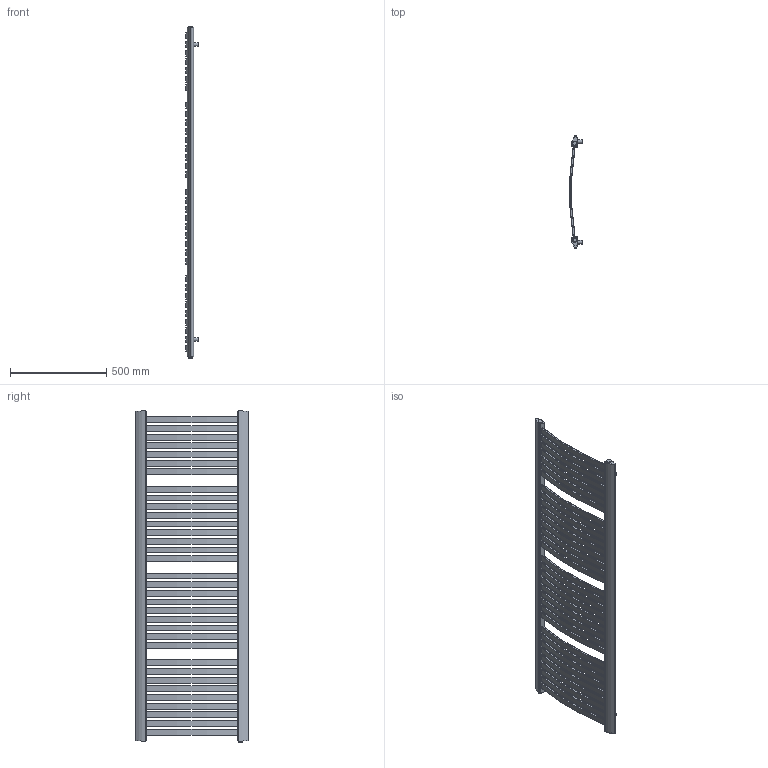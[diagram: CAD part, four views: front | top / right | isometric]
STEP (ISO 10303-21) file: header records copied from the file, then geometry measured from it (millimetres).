
FILE_DESCRIPTION(/* description */ (''),/* implementation_level */ '2;1');
FILE_NAME(/* name */ 'C:\Grzejniki\13DLUXRAD\łazienkowe\KASTOR\KASTOR 1710x580.iam.stp',/* time_stamp */ '2016-06-28T17:35:04+02:00',/* author */ ('m.szydziak'),/* organization */ (''),/* preprocessor_version */ 'ST-DEVELOPER v16.5',/* originating_system */ 'Autodesk Inventor 2017',/* authorisation */ '');
FILE_SCHEMA (('AUTOMOTIVE_DESIGN { 1 0 10303 214 3 1 1 }'));
Length unit declared in the file: millimetre
Products named in the file (6): KASTOR 1710x580; 30x10x1x484; 56x34x1,2x1710; zaślepka 56x34 G0,5inch; uchwyt stały; korek
Assembly tree (48 placements, depth 2):
  KASTOR 1710x580
    30x10x1x484  x34
    56x34x1,2x1710  x2
    zaślepka 56x34 G0,5inch  x4
    uchwyt stały  x4
    korek  x4
Bounding box: 63.33 x 582.61 x 1722 mm (x, y, z)
Volume: 1856184.4 mm3; surface area: 3508151 mm2
Topology: 48 solids, 48 shells, 1568 faces, 4148 edges, 2676 vertices
Faces by surface type: plane 1104, cylinder 464
Full cylindrical faces by diameter (mm): 15 x4, 18 x4, 18.631 x4, 24 x4
Entity records: 11886 total; most frequent: DIRECTION 2098, CARTESIAN_POINT 2022, ORIENTED_EDGE 1954, EDGE_CURVE 977, AXIS2_PLACEMENT_3D 727, VERTEX_POINT 651, LINE 644, VECTOR 644
